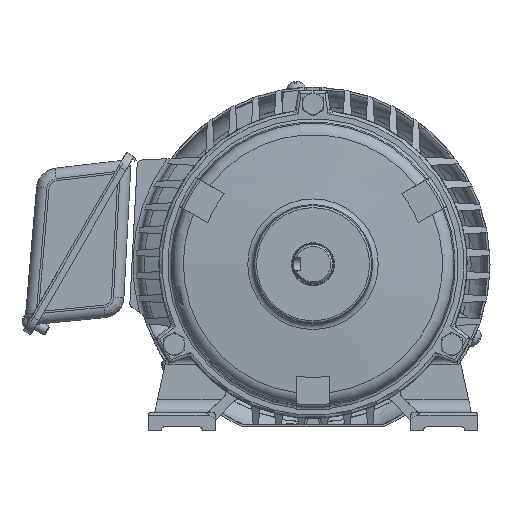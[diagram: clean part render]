
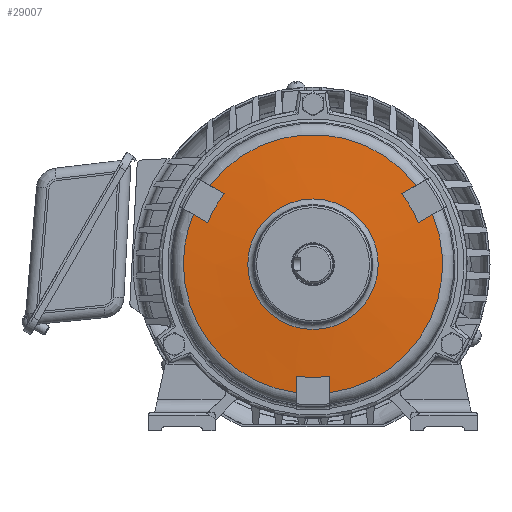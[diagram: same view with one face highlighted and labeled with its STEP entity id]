
A CAD part, front view. The second image highlights one B-rep face of the part: STEP entity #29007.
In plain terms, the highlighted conical face has half-angle 85.486 degrees and reference radius 67 mm.
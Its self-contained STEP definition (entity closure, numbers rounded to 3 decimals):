
#470=CONICAL_SURFACE('',#31015,67.,1.492);
#1098=CIRCLE('',#31016,31.338);
#1099=CIRCLE('',#31017,62.246);
#1100=CIRCLE('',#31018,54.333);
#1101=CIRCLE('',#31019,62.246);
#1102=CIRCLE('',#31020,54.333);
#1103=CIRCLE('',#31021,62.246);
#1104=CIRCLE('',#31022,54.333);
#2973=B_SPLINE_CURVE_WITH_KNOTS('',3,(#47245,#47246,#47247,#47248),
 .UNSPECIFIED.,.F.,.F.,(4,4),(0.,1.),.PIECEWISE_BEZIER_KNOTS.);
#2974=B_SPLINE_CURVE_WITH_KNOTS('',3,(#47253,#47254,#47255,#47256),
 .UNSPECIFIED.,.F.,.F.,(4,4),(0.,1.),.PIECEWISE_BEZIER_KNOTS.);
#2975=B_SPLINE_CURVE_WITH_KNOTS('',3,(#47260,#47261,#47262,#47263),
 .UNSPECIFIED.,.F.,.F.,(4,4),(0.,1.),.PIECEWISE_BEZIER_KNOTS.);
#2976=B_SPLINE_CURVE_WITH_KNOTS('',3,(#47267,#47268,#47269,#47270),
 .UNSPECIFIED.,.F.,.F.,(4,4),(0.,1.),.PIECEWISE_BEZIER_KNOTS.);
#2977=B_SPLINE_CURVE_WITH_KNOTS('',3,(#47274,#47275,#47276,#47277),
 .UNSPECIFIED.,.F.,.F.,(4,4),(0.,1.),.PIECEWISE_BEZIER_KNOTS.);
#2978=B_SPLINE_CURVE_WITH_KNOTS('',3,(#47281,#47282,#47283,#47284),
 .UNSPECIFIED.,.F.,.F.,(4,4),(0.,1.),.PIECEWISE_BEZIER_KNOTS.);
#5753=ORIENTED_EDGE('',*,*,#12152,.T.);
#5754=ORIENTED_EDGE('',*,*,#12153,.F.);
#5755=ORIENTED_EDGE('',*,*,#12154,.T.);
#5756=ORIENTED_EDGE('',*,*,#12155,.F.);
#5757=ORIENTED_EDGE('',*,*,#12156,.F.);
#5758=ORIENTED_EDGE('',*,*,#12157,.F.);
#5759=ORIENTED_EDGE('',*,*,#12158,.T.);
#5760=ORIENTED_EDGE('',*,*,#12159,.F.);
#5761=ORIENTED_EDGE('',*,*,#12160,.F.);
#5762=ORIENTED_EDGE('',*,*,#12161,.F.);
#5763=ORIENTED_EDGE('',*,*,#12162,.T.);
#5764=ORIENTED_EDGE('',*,*,#12163,.F.);
#5765=ORIENTED_EDGE('',*,*,#12164,.F.);
#12152=EDGE_CURVE('',#15560,#15560,#1098,.T.);
#12153=EDGE_CURVE('',#15561,#15562,#2973,.T.);
#12154=EDGE_CURVE('',#15561,#15563,#1099,.T.);
#12155=EDGE_CURVE('',#15564,#15563,#2974,.T.);
#12156=EDGE_CURVE('',#15565,#15564,#1100,.T.);
#12157=EDGE_CURVE('',#15566,#15565,#2975,.T.);
#12158=EDGE_CURVE('',#15566,#15567,#1101,.T.);
#12159=EDGE_CURVE('',#15568,#15567,#2976,.T.);
#12160=EDGE_CURVE('',#15569,#15568,#1102,.T.);
#12161=EDGE_CURVE('',#15570,#15569,#2977,.T.);
#12162=EDGE_CURVE('',#15570,#15571,#1103,.T.);
#12163=EDGE_CURVE('',#15572,#15571,#2978,.T.);
#12164=EDGE_CURVE('',#15562,#15572,#1104,.T.);
#15560=VERTEX_POINT('',#47244);
#15561=VERTEX_POINT('',#47249);
#15562=VERTEX_POINT('',#47250);
#15563=VERTEX_POINT('',#47252);
#15564=VERTEX_POINT('',#47257);
#15565=VERTEX_POINT('',#47259);
#15566=VERTEX_POINT('',#47264);
#15567=VERTEX_POINT('',#47266);
#15568=VERTEX_POINT('',#47271);
#15569=VERTEX_POINT('',#47273);
#15570=VERTEX_POINT('',#47278);
#15571=VERTEX_POINT('',#47280);
#15572=VERTEX_POINT('',#47285);
#20767=EDGE_LOOP('',(#5753));
#20768=EDGE_LOOP('',(#5754,#5755,#5756,#5757,#5758,#5759,#5760,#5761,#5762,
#5763,#5764,#5765));
#22602=FACE_BOUND('',#20767,.T.);
#22603=FACE_BOUND('',#20768,.T.);
#29007=ADVANCED_FACE('',(#22602,#22603),#470,.T.);
#31015=AXIS2_PLACEMENT_3D('',#47242,#35360,#35361);
#31016=AXIS2_PLACEMENT_3D('',#47243,#35362,#35363);
#31017=AXIS2_PLACEMENT_3D('',#47251,#35364,#35365);
#31018=AXIS2_PLACEMENT_3D('',#47258,#35366,#35367);
#31019=AXIS2_PLACEMENT_3D('',#47265,#35368,#35369);
#31020=AXIS2_PLACEMENT_3D('',#47272,#35370,#35371);
#31021=AXIS2_PLACEMENT_3D('',#47279,#35372,#35373);
#31022=AXIS2_PLACEMENT_3D('',#47286,#35374,#35375);
#35360=DIRECTION('',(0.,1.,0.));
#35361=DIRECTION('',(-1.,0.,0.));
#35362=DIRECTION('',(0.,1.,0.));
#35363=DIRECTION('',(-1.,0.,0.));
#35364=DIRECTION('',(0.,-1.,0.));
#35365=DIRECTION('',(1.,0.,0.));
#35366=DIRECTION('',(0.,1.,0.));
#35367=DIRECTION('',(-1.,0.,0.));
#35368=DIRECTION('',(0.,-1.,0.));
#35369=DIRECTION('',(1.,0.,0.));
#35370=DIRECTION('',(0.,1.,0.));
#35371=DIRECTION('',(-1.,0.,0.));
#35372=DIRECTION('',(0.,-1.,0.));
#35373=DIRECTION('',(1.,0.,0.));
#35374=DIRECTION('',(0.,1.,0.));
#35375=DIRECTION('',(-1.,0.,0.));
#47242=CARTESIAN_POINT('',(0.,9.,0.));
#47243=CARTESIAN_POINT('',(0.,6.185,0.));
#47244=CARTESIAN_POINT('',(-31.338,6.185,0.));
#47245=CARTESIAN_POINT('',(8.,8.625,-61.73));
#47246=CARTESIAN_POINT('',(8.,8.416,-59.067));
#47247=CARTESIAN_POINT('',(8.,8.208,-56.404));
#47248=CARTESIAN_POINT('',(8.,8.,-53.741));
#47249=CARTESIAN_POINT('',(8.,8.625,-61.73));
#47250=CARTESIAN_POINT('',(8.,8.,-53.741));
#47251=CARTESIAN_POINT('',(0.,8.625,0.));
#47252=CARTESIAN_POINT('',(57.46,8.625,23.937));
#47253=CARTESIAN_POINT('',(50.541,8.,19.942));
#47254=CARTESIAN_POINT('',(52.847,8.208,21.274));
#47255=CARTESIAN_POINT('',(55.153,8.416,22.605));
#47256=CARTESIAN_POINT('',(57.46,8.625,23.937));
#47257=CARTESIAN_POINT('',(50.541,8.,19.942));
#47258=CARTESIAN_POINT('',(0.,8.,0.));
#47259=CARTESIAN_POINT('',(42.541,8.,33.799));
#47260=CARTESIAN_POINT('',(49.46,8.625,37.793));
#47261=CARTESIAN_POINT('',(47.153,8.416,36.462));
#47262=CARTESIAN_POINT('',(44.847,8.208,35.13));
#47263=CARTESIAN_POINT('',(42.541,8.,33.799));
#47264=CARTESIAN_POINT('',(49.46,8.625,37.793));
#47265=CARTESIAN_POINT('',(0.,8.625,0.));
#47266=CARTESIAN_POINT('',(-49.46,8.625,37.793));
#47267=CARTESIAN_POINT('',(-42.541,8.,33.799));
#47268=CARTESIAN_POINT('',(-44.847,8.208,35.13));
#47269=CARTESIAN_POINT('',(-47.153,8.416,36.462));
#47270=CARTESIAN_POINT('',(-49.46,8.625,37.793));
#47271=CARTESIAN_POINT('',(-42.541,8.,33.799));
#47272=CARTESIAN_POINT('',(0.,8.,0.));
#47273=CARTESIAN_POINT('',(-50.541,8.,19.942));
#47274=CARTESIAN_POINT('',(-57.46,8.625,23.937));
#47275=CARTESIAN_POINT('',(-55.153,8.416,22.605));
#47276=CARTESIAN_POINT('',(-52.847,8.208,21.274));
#47277=CARTESIAN_POINT('',(-50.541,8.,19.942));
#47278=CARTESIAN_POINT('',(-57.46,8.625,23.937));
#47279=CARTESIAN_POINT('',(0.,8.625,0.));
#47280=CARTESIAN_POINT('',(-8.,8.625,-61.73));
#47281=CARTESIAN_POINT('',(-8.,8.,-53.741));
#47282=CARTESIAN_POINT('',(-8.,8.208,-56.404));
#47283=CARTESIAN_POINT('',(-8.,8.416,-59.067));
#47284=CARTESIAN_POINT('',(-8.,8.625,-61.73));
#47285=CARTESIAN_POINT('',(-8.,8.,-53.741));
#47286=CARTESIAN_POINT('',(0.,8.,0.));
